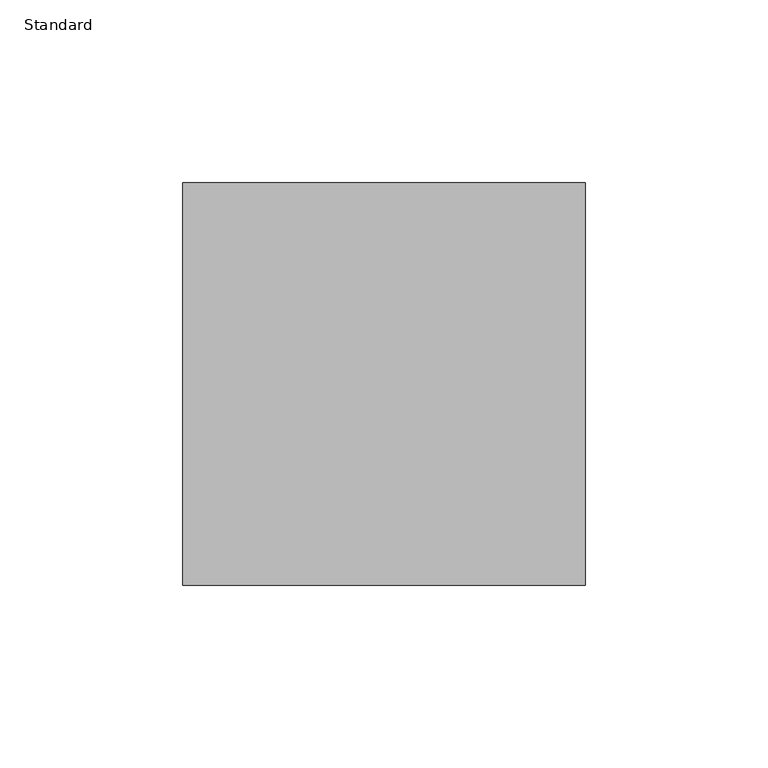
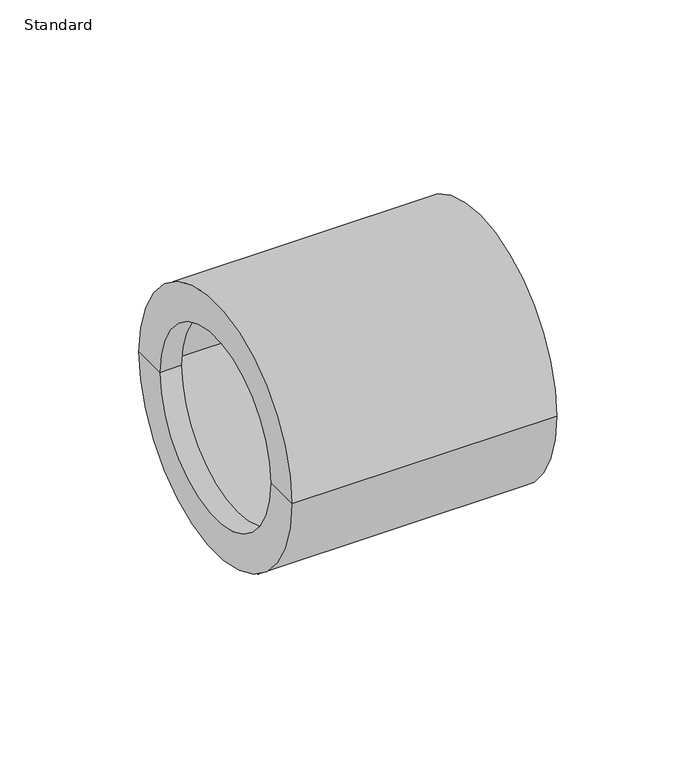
"""IFC4 building model written with IfcOpenShell, lengths in millimetres: pipe fitting geometry, Durapipe_PipeFitting_PVC_ReducingBush : Standard."""

from ifc_helpers import new_model, si_unit, frame, origin, place, context, project, spatial, polyline, circle_curve, source, transform, mapped, element, save
from ifc_brep_helpers import plane_surface, cylinder_surface, revolved_surface, advanced_brep


def standard_05049b9e(model_context):
    return source(origin(), model_context, "Body", "AdvancedBrep", [
        advanced_brep(
        [(-9.0, -40.0, 0.0), (-9.0, 40.0, 0.0), (-9.0, 55.0, 0.0), (-9.0, -55.0, 0.0), (0.0, -40.0, 0.0), (0.0, 40.0, 0.0), (0.0, -45.0, 0.0), (0.0, 45.0, 0.0), (101.0, -45.0, 0.0), (101.0, 45.0, 0.0), (101.0, -55.0, 0.0), (101.0, 55.0, 0.0)],
        [
            (0, 1, circle_curve(frame((-9.0, 0.0, 0.0), z_axis=(1.0, 0.0, 0.0), x_axis=(0.0, 1.0, 0.0)), 40.0)),
            (1, 2),
            (2, 3, circle_curve(frame((-9.0, 0.0, 0.0), z_axis=(-1.0, 0.0, 0.0), x_axis=(0.0, 1.0, 0.0)), 55.0)),
            (3, 0),
            (1, 0, circle_curve(frame((-9.0, 0.0, 0.0), z_axis=(1.0, 0.0, 0.0), x_axis=(0.0, 1.0, 0.0)), 40.0)),
            (3, 2, circle_curve(frame((-9.0, 0.0, 0.0), z_axis=(-1.0, 0.0, 0.0), x_axis=(0.0, 1.0, 0.0)), 55.0)),
            (4, 5, circle_curve(frame((0.0, 0.0, 0.0), z_axis=(1.0, 0.0, 0.0), x_axis=(0.0, 1.0, 0.0)), 40.0)),
            (5, 1),
            (0, 4),
            (5, 4, circle_curve(frame((0.0, 0.0, 0.0), z_axis=(1.0, 0.0, 0.0), x_axis=(0.0, 1.0, 0.0)), 40.0)),
            (6, 7, circle_curve(frame((0.0, 0.0, 0.0), z_axis=(1.0, 0.0, 0.0), x_axis=(0.0, 1.0, 0.0)), 45.0)),
            (7, 5),
            (4, 6),
            (7, 6, circle_curve(frame((0.0, 0.0, 0.0), z_axis=(1.0, 0.0, 0.0), x_axis=(0.0, 1.0, 0.0)), 45.0)),
            (8, 9, circle_curve(frame((101.0, 0.0, 0.0), z_axis=(1.0, 0.0, 0.0), x_axis=(0.0, 1.0, 0.0)), 45.0)),
            (9, 7),
            (6, 8),
            (9, 8, circle_curve(frame((101.0, 0.0, 0.0), z_axis=(1.0, 0.0, 0.0), x_axis=(0.0, 1.0, 0.0)), 45.0)),
            (10, 11, circle_curve(frame((101.0, 0.0, 0.0), z_axis=(1.0, 0.0, 0.0), x_axis=(0.0, 1.0, 0.0)), 55.0)),
            (11, 9),
            (8, 10),
            (11, 10, circle_curve(frame((101.0, 0.0, 0.0), z_axis=(1.0, 0.0, 0.0), x_axis=(0.0, 1.0, 0.0)), 55.0)),
            (2, 11),
            (10, 3),
        ],
        [
            plane_surface(frame((-9.0, 0.0, 0.0), z_axis=(-1.0, 0.0, 0.0), x_axis=(0.0, 1.0, 0.0))),
            revolved_surface(polyline([(-9.0, 40.0, 0.0), (0.0, 40.0, 0.0)]), (2087.0, 0.0, 0.0), (-1.0, 0.0, 0.0)),
            plane_surface(frame((0.0, 0.0, 0.0), z_axis=(1.0, 0.0, 0.0), x_axis=(0.0, 1.0, 0.0))),
            revolved_surface(polyline([(0.0, 45.0, 0.0), (101.0, 45.0, 0.0)]), (2087.0, 0.0, 0.0), (-1.0, 0.0, 0.0)),
            plane_surface(frame((101.0, 0.0, 0.0), z_axis=(1.0, 0.0, 0.0), x_axis=(0.0, 1.0, 0.0))),
            cylinder_surface(frame((2087.0, 0.0, 0.0), z_axis=(-1.0, 0.0, 0.0), x_axis=(0.0, 1.0, 0.0)), 55.0),
        ],
        [
            (0, [[1, 2, 3, 4]]),
            (0, [[5, -4, 6, -2]]),
            (1, [[7, 8, -1, 9]]),
            (1, [[10, -9, -5, -8]]),
            (2, [[11, 12, -7, 13]]),
            (2, [[14, -13, -10, -12]]),
            (3, [[15, 16, -11, 17]]),
            (3, [[18, -17, -14, -16]]),
            (4, [[19, 20, -15, 21]]),
            (4, [[22, -21, -18, -20]]),
            (5, [[-3, 23, -19, 24]]),
            (5, [[-6, -24, -22, -23]]),
        ],
    ),
    ])


if __name__ == "__main__":
    model = new_model("IFC4")
    model_context = context("Model", 3, world=origin())
    ifc_project = project(units=[si_unit("LENGTHUNIT", "METRE", prefix="MILLI")], contexts=[model_context])
    site = spatial("IfcSite", under=ifc_project)
    building = spatial("IfcBuilding", under=site)
    placement = place(None, origin())
    standard_shape = standard_05049b9e(model_context)
    element("IfcPipeFitting", 1, ObjectType="Durapipe_PipeFitting_PVC_ReducingBush : Standard", at=placement, inside=building, context=model_context, shape_type="MappedRepresentation", body=[
        mapped(standard_shape, transform((0.0, 0.0, 0.0), x_axis=(1.0, 0.0, 0.0), y_axis=(0.0, 1.0, 0.0), z_axis=(0.0, 0.0, 1.0))),
    ])
    save(model, "model.ifc")
